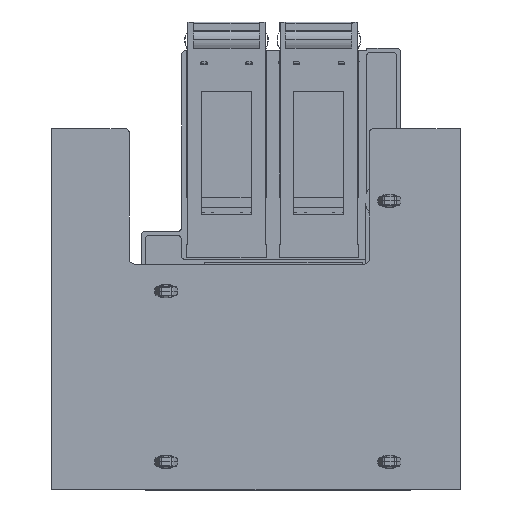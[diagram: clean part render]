
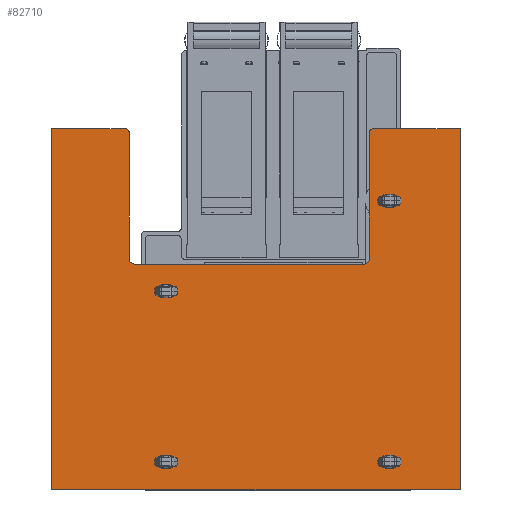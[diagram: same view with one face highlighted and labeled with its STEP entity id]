
A CAD part, front view. The second image highlights one B-rep face of the part: STEP entity #82710.
In plain terms, the highlighted planar face has unit normal (0, -1, 0).
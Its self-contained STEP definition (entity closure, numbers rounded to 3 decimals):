
#81915=DIRECTION('',(-1.,0.,0.));
#81916=VECTOR('',#81915,1.6);
#81917=CARTESIAN_POINT('',(100.2,-2.16,-465.9));
#81918=LINE('',#81917,#81916);
#81922=CARTESIAN_POINT('',(98.6,-2.16,-467.5));
#81923=DIRECTION('',(0.,-1.,0.));
#81924=DIRECTION('',(0.,0.,1.));
#81925=AXIS2_PLACEMENT_3D('',#81922,#81923,#81924);
#81930=DIRECTION('',(1.,0.,0.));
#81931=VECTOR('',#81930,1.6);
#81932=CARTESIAN_POINT('',(98.6,-2.16,-469.1));
#81933=LINE('',#81932,#81931);
#81937=CARTESIAN_POINT('',(100.2,-2.16,-467.5));
#81938=DIRECTION('',(0.,-1.,0.));
#81939=DIRECTION('',(0.,0.,-1.));
#81940=AXIS2_PLACEMENT_3D('',#81937,#81938,#81939);
#81945=DIRECTION('',(1.,0.,0.));
#81946=VECTOR('',#81945,1.6);
#81947=CARTESIAN_POINT('',(98.6,-2.16,-423.4));
#81948=LINE('',#81947,#81946);
#81952=CARTESIAN_POINT('',(98.6,-2.16,-425.));
#81953=DIRECTION('',(0.,1.,0.));
#81954=DIRECTION('',(0.,0.,-1.));
#81955=AXIS2_PLACEMENT_3D('',#81952,#81953,#81954);
#81960=DIRECTION('',(-1.,0.,0.));
#81961=VECTOR('',#81960,1.6);
#81962=CARTESIAN_POINT('',(100.2,-2.16,-426.6));
#81963=LINE('',#81962,#81961);
#81967=CARTESIAN_POINT('',(100.2,-2.16,-425.));
#81968=DIRECTION('',(0.,1.,0.));
#81969=DIRECTION('',(0.,0.,1.));
#81970=AXIS2_PLACEMENT_3D('',#81967,#81968,#81969);
#81975=CARTESIAN_POINT('',(44.6,-2.16,-425.));
#81976=DIRECTION('',(0.,1.,0.));
#81977=DIRECTION('',(0.,0.,1.));
#81978=AXIS2_PLACEMENT_3D('',#81975,#81976,#81977);
#81983=DIRECTION('',(1.,0.,0.));
#81984=VECTOR('',#81983,1.6);
#81985=CARTESIAN_POINT('',(43.,-2.16,-423.4));
#81986=LINE('',#81985,#81984);
#81990=CARTESIAN_POINT('',(43.,-2.16,-425.));
#81991=DIRECTION('',(0.,1.,0.));
#81992=DIRECTION('',(0.,0.,-1.));
#81993=AXIS2_PLACEMENT_3D('',#81990,#81991,#81992);
#81998=DIRECTION('',(-1.,0.,0.));
#81999=VECTOR('',#81998,1.6);
#82000=CARTESIAN_POINT('',(44.6,-2.16,-426.6));
#82001=LINE('',#82000,#81999);
#82005=CARTESIAN_POINT('',(44.6,-2.16,-490.));
#82006=DIRECTION('',(0.,1.,0.));
#82007=DIRECTION('',(0.,0.,1.));
#82008=AXIS2_PLACEMENT_3D('',#82005,#82006,#82007);
#82013=DIRECTION('',(1.,0.,0.));
#82014=VECTOR('',#82013,1.6);
#82015=CARTESIAN_POINT('',(43.,-2.16,-488.4));
#82016=LINE('',#82015,#82014);
#82020=CARTESIAN_POINT('',(43.,-2.16,-490.));
#82021=DIRECTION('',(0.,1.,0.));
#82022=DIRECTION('',(0.,0.,-1.));
#82023=AXIS2_PLACEMENT_3D('',#82020,#82021,#82022);
#82028=DIRECTION('',(-1.,0.,0.));
#82029=VECTOR('',#82028,1.6);
#82030=CARTESIAN_POINT('',(44.6,-2.16,-491.6));
#82031=LINE('',#82030,#82029);
#82035=CARTESIAN_POINT('',(47.77,-2.16,-507.));
#82036=DIRECTION('',(0.,-1.,0.));
#82037=DIRECTION('',(0.,0.,-1.));
#82038=AXIS2_PLACEMENT_3D('',#82035,#82036,#82037);
#82043=DIRECTION('',(1.,0.,0.));
#82044=VECTOR('',#82043,18.25);
#82045=CARTESIAN_POINT('',(109.62,-2.16,-508.));
#82046=LINE('',#82045,#82044);
#82050=CARTESIAN_POINT('',(109.62,-2.16,-507.));
#82051=DIRECTION('',(0.,-1.,0.));
#82052=DIRECTION('',(-1.,0.,0.));
#82053=AXIS2_PLACEMENT_3D('',#82050,#82051,#82052);
#82058=DIRECTION('',(0.,0.,1.));
#82059=VECTOR('',#82058,31.27);
#82060=CARTESIAN_POINT('',(108.62,-2.16,-507.));
#82061=LINE('',#82060,#82059);
#82341=DIRECTION('',(0.,0.,1.));
#82342=VECTOR('',#82341,31.27);
#82343=CARTESIAN_POINT('',(48.77,-2.16,-507.));
#82344=LINE('',#82343,#82342);
#82348=CARTESIAN_POINT('',(50.27,-2.16,-475.73));
#82349=DIRECTION('',(0.,1.,0.));
#82350=DIRECTION('',(-1.,0.,0.));
#82351=AXIS2_PLACEMENT_3D('',#82348,#82349,#82350);
#82385=DIRECTION('',(1.,0.,0.));
#82386=VECTOR('',#82385,56.85);
#82387=CARTESIAN_POINT('',(50.27,-2.16,-474.23));
#82388=LINE('',#82387,#82386);
#82392=CARTESIAN_POINT('',(107.12,-2.16,-475.73));
#82393=DIRECTION('',(0.,1.,0.));
#82394=DIRECTION('',(0.,0.,1.));
#82395=AXIS2_PLACEMENT_3D('',#82392,#82393,#82394);
#82457=DIRECTION('',(0.,0.,-1.));
#82458=VECTOR('',#82457,90.);
#82459=CARTESIAN_POINT('',(127.87,-2.16,-418.));
#82460=LINE('',#82459,#82458);
#82464=DIRECTION('',(1.,0.,0.));
#82465=VECTOR('',#82464,101.72);
#82466=CARTESIAN_POINT('',(26.15,-2.16,-418.));
#82467=LINE('',#82466,#82465);
#82485=DIRECTION('',(0.,0.,1.));
#82486=VECTOR('',#82485,90.);
#82487=CARTESIAN_POINT('',(26.15,-2.16,-508.));
#82488=LINE('',#82487,#82486);
#82506=DIRECTION('',(1.,0.,0.));
#82507=VECTOR('',#82506,21.62);
#82508=CARTESIAN_POINT('',(26.15,-2.16,-508.));
#82509=LINE('',#82508,#82507);
#82527=CARTESIAN_POINT('',(26.15,-2.16,-418.));
#82528=CARTESIAN_POINT('',(127.87,-2.16,-418.));
#82529=VERTEX_POINT('',#82527);
#82530=VERTEX_POINT('',#82528);
#82531=CARTESIAN_POINT('',(26.15,-2.16,-508.));
#82532=VERTEX_POINT('',#82531);
#82533=CARTESIAN_POINT('',(43.,-2.16,-423.4));
#82534=CARTESIAN_POINT('',(44.6,-2.16,-423.4));
#82535=VERTEX_POINT('',#82533);
#82536=VERTEX_POINT('',#82534);
#82537=CARTESIAN_POINT('',(43.,-2.16,-488.4));
#82538=CARTESIAN_POINT('',(44.6,-2.16,-488.4));
#82539=VERTEX_POINT('',#82537);
#82540=VERTEX_POINT('',#82538);
#82547=CARTESIAN_POINT('',(43.,-2.16,-426.6));
#82549=VERTEX_POINT('',#82547);
#82551=CARTESIAN_POINT('',(44.6,-2.16,-426.6));
#82552=VERTEX_POINT('',#82551);
#82557=CARTESIAN_POINT('',(43.,-2.16,-491.6));
#82559=VERTEX_POINT('',#82557);
#82563=CARTESIAN_POINT('',(44.6,-2.16,-491.6));
#82564=VERTEX_POINT('',#82563);
#82565=CARTESIAN_POINT('',(127.87,-2.16,-508.));
#82566=VERTEX_POINT('',#82565);
#82575=CARTESIAN_POINT('',(47.77,-2.16,-508.));
#82576=VERTEX_POINT('',#82575);
#82581=CARTESIAN_POINT('',(48.77,-2.16,-507.));
#82582=VERTEX_POINT('',#82581);
#82587=CARTESIAN_POINT('',(108.62,-2.16,-507.));
#82588=VERTEX_POINT('',#82587);
#82589=CARTESIAN_POINT('',(109.62,-2.16,-508.));
#82590=VERTEX_POINT('',#82589);
#82591=CARTESIAN_POINT('',(107.12,-2.16,-474.23));
#82593=VERTEX_POINT('',#82591);
#82595=CARTESIAN_POINT('',(108.62,-2.16,-475.73));
#82597=VERTEX_POINT('',#82595);
#82599=CARTESIAN_POINT('',(48.77,-2.16,-475.73));
#82601=VERTEX_POINT('',#82599);
#82603=CARTESIAN_POINT('',(50.27,-2.16,-474.23));
#82605=VERTEX_POINT('',#82603);
#82615=CARTESIAN_POINT('',(98.6,-2.16,-423.4));
#82616=CARTESIAN_POINT('',(100.2,-2.16,-423.4));
#82617=VERTEX_POINT('',#82615);
#82618=VERTEX_POINT('',#82616);
#82619=CARTESIAN_POINT('',(98.6,-2.16,-426.6));
#82620=VERTEX_POINT('',#82619);
#82621=CARTESIAN_POINT('',(100.2,-2.16,-426.6));
#82622=VERTEX_POINT('',#82621);
#82631=CARTESIAN_POINT('',(100.2,-2.16,-465.9));
#82632=CARTESIAN_POINT('',(98.6,-2.16,-465.9));
#82633=VERTEX_POINT('',#82631);
#82634=VERTEX_POINT('',#82632);
#82635=CARTESIAN_POINT('',(98.6,-2.16,-469.1));
#82636=VERTEX_POINT('',#82635);
#82637=CARTESIAN_POINT('',(100.2,-2.16,-469.1));
#82638=VERTEX_POINT('',#82637);
#82639=CARTESIAN_POINT('',(0.,-2.16,0.));
#82640=DIRECTION('',(0.,1.,0.));
#82641=DIRECTION('',(0.,0.,1.));
#82642=AXIS2_PLACEMENT_3D('',#82639,#82640,#82641);
#82643=PLANE('',#82642);
#82645=ORIENTED_EDGE('',*,*,#82644,.F.);
#82647=ORIENTED_EDGE('',*,*,#82646,.F.);
#82649=ORIENTED_EDGE('',*,*,#82648,.F.);
#82651=ORIENTED_EDGE('',*,*,#82650,.F.);
#82653=ORIENTED_EDGE('',*,*,#82652,.F.);
#82655=ORIENTED_EDGE('',*,*,#82654,.T.);
#82657=ORIENTED_EDGE('',*,*,#82656,.T.);
#82659=ORIENTED_EDGE('',*,*,#82658,.T.);
#82661=ORIENTED_EDGE('',*,*,#82660,.F.);
#82663=ORIENTED_EDGE('',*,*,#82662,.F.);
#82665=ORIENTED_EDGE('',*,*,#82664,.T.);
#82667=ORIENTED_EDGE('',*,*,#82666,.F.);
#82668=EDGE_LOOP('',(#82645,#82647,#82649,#82651,#82653,#82655,#82657,#82659,
#82661,#82663,#82665,#82667));
#82669=FACE_OUTER_BOUND('',#82668,.F.);
#82671=ORIENTED_EDGE('',*,*,#82670,.F.);
#82673=ORIENTED_EDGE('',*,*,#82672,.F.);
#82675=ORIENTED_EDGE('',*,*,#82674,.F.);
#82677=ORIENTED_EDGE('',*,*,#82676,.F.);
#82678=EDGE_LOOP('',(#82671,#82673,#82675,#82677));
#82679=FACE_BOUND('',#82678,.F.);
#82681=ORIENTED_EDGE('',*,*,#82680,.F.);
#82683=ORIENTED_EDGE('',*,*,#82682,.F.);
#82685=ORIENTED_EDGE('',*,*,#82684,.F.);
#82687=ORIENTED_EDGE('',*,*,#82686,.F.);
#82688=EDGE_LOOP('',(#82681,#82683,#82685,#82687));
#82689=FACE_BOUND('',#82688,.F.);
#82691=ORIENTED_EDGE('',*,*,#82690,.F.);
#82693=ORIENTED_EDGE('',*,*,#82692,.F.);
#82695=ORIENTED_EDGE('',*,*,#82694,.F.);
#82697=ORIENTED_EDGE('',*,*,#82696,.F.);
#82698=EDGE_LOOP('',(#82691,#82693,#82695,#82697));
#82699=FACE_BOUND('',#82698,.F.);
#82701=ORIENTED_EDGE('',*,*,#82700,.T.);
#82703=ORIENTED_EDGE('',*,*,#82702,.T.);
#82705=ORIENTED_EDGE('',*,*,#82704,.T.);
#82707=ORIENTED_EDGE('',*,*,#82706,.T.);
#82708=EDGE_LOOP('',(#82701,#82703,#82705,#82707));
#82709=FACE_BOUND('',#82708,.F.);
#81926=CIRCLE('',#81925,1.6);
#81941=CIRCLE('',#81940,1.6);
#81956=CIRCLE('',#81955,1.6);
#81971=CIRCLE('',#81970,1.6);
#81979=CIRCLE('',#81978,1.6);
#81994=CIRCLE('',#81993,1.6);
#82009=CIRCLE('',#82008,1.6);
#82024=CIRCLE('',#82023,1.6);
#82039=CIRCLE('',#82038,1.);
#82054=CIRCLE('',#82053,1.);
#82352=CIRCLE('',#82351,1.5);
#82396=CIRCLE('',#82395,1.5);
#82644=EDGE_CURVE('',#82605,#82593,#82388,.T.);
#82646=EDGE_CURVE('',#82601,#82605,#82352,.T.);
#82648=EDGE_CURVE('',#82582,#82601,#82344,.T.);
#82650=EDGE_CURVE('',#82576,#82582,#82039,.T.);
#82652=EDGE_CURVE('',#82532,#82576,#82509,.T.);
#82654=EDGE_CURVE('',#82532,#82529,#82488,.T.);
#82656=EDGE_CURVE('',#82529,#82530,#82467,.T.);
#82658=EDGE_CURVE('',#82530,#82566,#82460,.T.);
#82660=EDGE_CURVE('',#82590,#82566,#82046,.T.);
#82662=EDGE_CURVE('',#82588,#82590,#82054,.T.);
#82664=EDGE_CURVE('',#82588,#82597,#82061,.T.);
#82666=EDGE_CURVE('',#82593,#82597,#82396,.T.);
#82670=EDGE_CURVE('',#82617,#82618,#81948,.T.);
#82672=EDGE_CURVE('',#82620,#82617,#81956,.T.);
#82674=EDGE_CURVE('',#82622,#82620,#81963,.T.);
#82676=EDGE_CURVE('',#82618,#82622,#81971,.T.);
#82680=EDGE_CURVE('',#82536,#82552,#81979,.T.);
#82682=EDGE_CURVE('',#82535,#82536,#81986,.T.);
#82684=EDGE_CURVE('',#82549,#82535,#81994,.T.);
#82686=EDGE_CURVE('',#82552,#82549,#82001,.T.);
#82690=EDGE_CURVE('',#82540,#82564,#82009,.T.);
#82692=EDGE_CURVE('',#82539,#82540,#82016,.T.);
#82694=EDGE_CURVE('',#82559,#82539,#82024,.T.);
#82696=EDGE_CURVE('',#82564,#82559,#82031,.T.);
#82700=EDGE_CURVE('',#82633,#82634,#81918,.T.);
#82702=EDGE_CURVE('',#82634,#82636,#81926,.T.);
#82704=EDGE_CURVE('',#82636,#82638,#81933,.T.);
#82706=EDGE_CURVE('',#82638,#82633,#81941,.T.);
#82710=ADVANCED_FACE('',(#82669,#82679,#82689,#82699,#82709),#82643,.F.);
